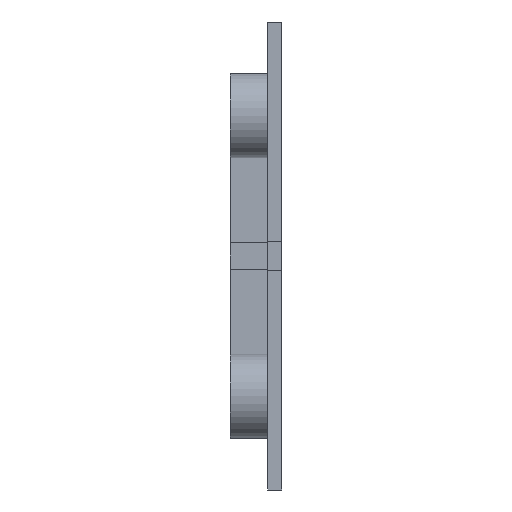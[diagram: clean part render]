
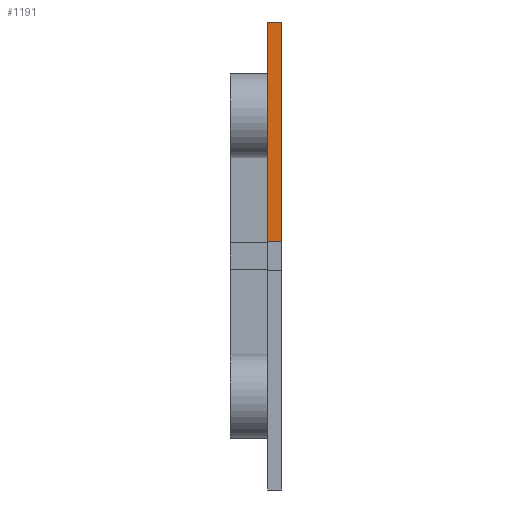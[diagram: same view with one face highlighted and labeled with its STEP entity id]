
A CAD part, left-side view. The second image highlights one B-rep face of the part: STEP entity #1191.
In plain terms, the highlighted planar face has unit normal (-1, 0, 0).
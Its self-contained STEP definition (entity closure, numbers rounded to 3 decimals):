
#85=FACE_OUTER_BOUND('',#152,.T.);
#152=EDGE_LOOP('',(#951,#952,#953,#954));
#282=LINE('',#1785,#434);
#310=LINE('',#1848,#462);
#311=LINE('',#1851,#463);
#312=LINE('',#1852,#464);
#434=VECTOR('',#1437,10.);
#462=VECTOR('',#1485,10.);
#463=VECTOR('',#1488,10.);
#464=VECTOR('',#1489,10.);
#561=VERTEX_POINT('',#1782);
#562=VERTEX_POINT('',#1784);
#587=VERTEX_POINT('',#1845);
#588=VERTEX_POINT('',#1850);
#698=EDGE_CURVE('',#562,#561,#282,.T.);
#730=EDGE_CURVE('',#587,#562,#310,.T.);
#731=EDGE_CURVE('',#561,#588,#311,.T.);
#732=EDGE_CURVE('',#587,#588,#312,.T.);
#951=ORIENTED_EDGE('',*,*,#730,.T.);
#952=ORIENTED_EDGE('',*,*,#698,.T.);
#953=ORIENTED_EDGE('',*,*,#731,.T.);
#954=ORIENTED_EDGE('',*,*,#732,.F.);
#1140=PLANE('',#1256);
#1191=ADVANCED_FACE('',(#85),#1140,.T.);
#1256=AXIS2_PLACEMENT_3D('',#1849,#1486,#1487);
#1437=DIRECTION('',(0.,0.,1.));
#1485=DIRECTION('',(0.,-1.,0.));
#1486=DIRECTION('center_axis',(-1.,0.,0.));
#1487=DIRECTION('ref_axis',(0.,0.,1.));
#1488=DIRECTION('',(0.,1.,0.));
#1489=DIRECTION('',(0.,0.,1.));
#1782=CARTESIAN_POINT('',(-25.,0.,25.));
#1784=CARTESIAN_POINT('',(-25.,0.,1.6));
#1785=CARTESIAN_POINT('',(-25.,0.,-25.));
#1845=CARTESIAN_POINT('',(-25.,1.5,1.6));
#1848=CARTESIAN_POINT('',(-25.,1.375,1.6));
#1849=CARTESIAN_POINT('Origin',(-25.,0.,-1.4));
#1850=CARTESIAN_POINT('',(-25.,1.5,25.));
#1851=CARTESIAN_POINT('',(-25.,0.,25.));
#1852=CARTESIAN_POINT('',(-25.,1.5,-25.));
